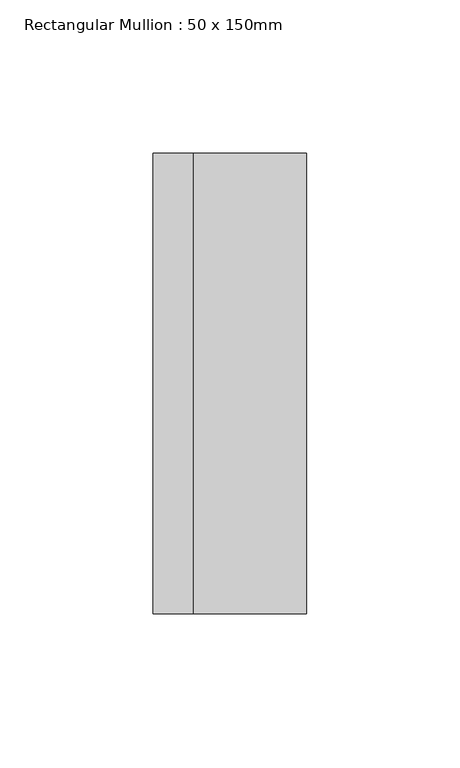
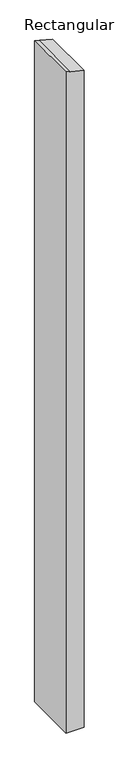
"""IFC4 building model written with IfcOpenShell, lengths in millimetres: member geometry, Rectangular Mullion : 50 x 150mm."""

import ifcopenshell
import ifcopenshell.guid

model = None  # the IFC model being written
_history = None  # IfcOwnerHistory: only IFC2X3 demands one
_inside = {}  # id of a spatial element -> (the spatial element, [elements in it])
_under = {}  # id of a project, library or spatial element -> (it, [spatial elements below it])
_declared = {}  # id of a project -> (the project, [libraries it declares])
_typed = {}  # id of a type object -> (the type object, [elements of that type])
_made_of = {}  # id of a material, layer set ... -> (it, [elements and type objects made of it])


def new_model(schema):
    """Start an empty IFC model of exactly this schema.

    Asked for "IFC4X3", IfcOpenShell would pick the latest addendum, in which some entities
    have other attributes; the version numbers below select the first issue.
    IFC2X3 requires an IfcOwnerHistory on every rooted entity: one is made here for all.
    """
    global model, _history
    if schema == "IFC4X3":
        model = ifcopenshell.file(schema_version=(4, 3, 0, 0))
    else:
        model = ifcopenshell.file(schema=schema)
    _inside.clear()
    _under.clear()
    _declared.clear()
    _typed.clear()
    _made_of.clear()
    _history = None
    if model.schema == "IFC2X3":
        org = make("IfcOrganization", Name="unknown")
        user = make(
            "IfcPersonAndOrganization",
            ThePerson=make("IfcPerson", FamilyName="unknown"),
            TheOrganization=org,
        )
        app = make(
            "IfcApplication",
            ApplicationDeveloper=org,
            Version="unknown",
            ApplicationFullName="unknown",
            ApplicationIdentifier="unknown",
        )
        _history = make(
            "IfcOwnerHistory",
            OwningUser=user,
            OwningApplication=app,
            ChangeAction="ADDED",
            CreationDate=0,
        )
    return model


def make(cls, **values):
    """One entity of the class cls with the attributes given. An attribute that is None is left unset."""
    return model.create_entity(
        cls, **{name: value for name, value in values.items() if value is not None}
    )


def rooted(cls, **values):
    """An entity with a GlobalId (a new one), such as an element, a storey or a relation."""
    return make(cls, GlobalId=ifcopenshell.guid.new(), OwnerHistory=_history, **values)


def si_unit(unit_type, name, prefix=None):
    """IfcSIUnit, for example si_unit("LENGTHUNIT", "METRE", prefix="MILLI")."""
    return make("IfcSIUnit", UnitType=unit_type, Prefix=prefix, Name=name)


def assignment(units):
    """IfcUnitAssignment: the units of a project."""
    return None if units is None else make("IfcUnitAssignment", Units=units)


def point(xyz):
    """IfcCartesianPoint."""
    return None if xyz is None else make("IfcCartesianPoint", Coordinates=xyz)


def direction(xyz):
    """IfcDirection."""
    return None if xyz is None else make("IfcDirection", DirectionRatios=xyz)


def frame(location, z_axis=None, x_axis=None):
    """IfcAxis2Placement3D, a coordinate frame: its origin and axes. An axis left out is left unset."""
    return make(
        "IfcAxis2Placement3D",
        Location=point(location),
        Axis=direction(z_axis),
        RefDirection=direction(x_axis),
    )


def origin():
    """The frame at (0, 0, 0) with its axes left unset."""
    return frame((0.0, 0.0, 0.0))


def place(relative_to, where):
    """IfcLocalPlacement: puts the frame where relative to a parent placement (None: the world)."""
    return make(
        "IfcLocalPlacement", PlacementRelTo=relative_to, RelativePlacement=where
    )


def context(
    kind, dimensions, precision=None, world=None, true_north=None, identifier=None
):
    """IfcGeometricRepresentationContext, for example the 3D "Model" context."""
    return make(
        "IfcGeometricRepresentationContext",
        ContextIdentifier=identifier,
        ContextType=kind,
        CoordinateSpaceDimension=dimensions,
        Precision=precision,
        WorldCoordinateSystem=world,
        TrueNorth=true_north,
    )


def project(units=None, contexts=None):
    """IfcProject with its units and contexts."""
    return rooted(
        "IfcProject",
        Name="project",
        RepresentationContexts=contexts,
        UnitsInContext=assignment(units),
    )


def spatial(cls, under=None, at=None, **own):
    """A site, building, storey or space (cls), placed at a placement, below another one or the project."""
    s = rooted(cls, ObjectPlacement=at, **own)
    if under is not None:
        _under.setdefault(under.id(), (under, []))[1].append(s)
    return s


def faces_of(points, faces, orient=None, outer=None):
    """IfcFace entities. A face is a list of loops; a loop is a list of indices into points, from 0.

    orient and outer hold one flag for each loop. By default every Orientation is true, the
    first loop of a face is its IfcFaceOuterBound and the others are IfcFaceBound.
    """
    made = []
    for i, loops in enumerate(faces):
        bounds = []
        for j, loop in enumerate(loops):
            is_outer = j == 0 if outer is None else outer[i][j]
            bounds.append(
                make(
                    "IfcFaceOuterBound" if is_outer else "IfcFaceBound",
                    Bound=make("IfcPolyLoop", Polygon=[points[k] for k in loop]),
                    Orientation=True if orient is None else orient[i][j],
                )
            )
        made.append(make("IfcFace", Bounds=bounds))
    return made


def faceted_brep(points, faces, orient=None, outer=None, voids=None):
    """IfcFacetedBrep: a solid bounded by flat faces; with voids (closed shells), ...WithVoids."""
    shared = [point(p) for p in points]
    hull = make("IfcClosedShell", CfsFaces=faces_of(shared, faces, orient, outer))
    if voids is None:
        return make("IfcFacetedBrep", Outer=hull)
    return make(
        "IfcFacetedBrepWithVoids",
        Outer=hull,
        Voids=[
            make(cls, CfsFaces=faces_of(shared, fs, o, b)) for cls, fs, o, b in voids
        ],
    )


def shape(context_of_items, identifier, shape_type, items):
    """IfcShapeRepresentation: the items that make up one representation, for example the "Body"."""
    return make(
        "IfcShapeRepresentation",
        ContextOfItems=context_of_items,
        RepresentationIdentifier=identifier,
        RepresentationType=shape_type,
        Items=items,
    )


def source(mapping_origin, context_of_items, identifier, shape_type, items):
    """IfcRepresentationMap: a shape defined once, which mapped items show again and again."""
    return make(
        "IfcRepresentationMap",
        MappingOrigin=mapping_origin,
        MappedRepresentation=shape(context_of_items, identifier, shape_type, items),
    )


def transform(
    local_origin,
    x_axis=None,
    y_axis=None,
    z_axis=None,
    scale=None,
    scale2=None,
    scale3=None,
    uniform=True,
):
    """IfcCartesianTransformationOperator3D, or its non-uniform kind. x_axis, y_axis, z_axis: its Axis1, 2, 3."""
    if uniform:
        return make(
            "IfcCartesianTransformationOperator3D",
            Axis1=direction(x_axis),
            Axis2=direction(y_axis),
            LocalOrigin=point(local_origin),
            Scale=scale,
            Axis3=direction(z_axis),
        )
    return make(
        "IfcCartesianTransformationOperator3DnonUniform",
        Axis1=direction(x_axis),
        Axis2=direction(y_axis),
        LocalOrigin=point(local_origin),
        Scale=scale,
        Axis3=direction(z_axis),
        Scale2=scale2,
        Scale3=scale3,
    )


def mapped(mapping_source, mapping_target):
    """IfcMappedItem: shows the shape of a source again, moved by a transform."""
    return make(
        "IfcMappedItem", MappingSource=mapping_source, MappingTarget=mapping_target
    )


def made_of(thing, what):
    """Note that an element or type object is made of a material, layer set ...; save() writes the relation."""
    if what is not None:
        _made_of.setdefault(what.id(), (what, []))[1].append(thing)
    return thing


def element(
    cls,
    number,
    at=None,
    inside=None,
    cuts=None,
    type_object=None,
    material=None,
    context=None,
    identifier="Body",
    shape_type=None,
    held_by="IfcProductDefinitionShape",
    body=None,
    shapes=None,
    **own,
):
    """One element of the class cls, such as IfcWall. Its Tag is "e" and its number.

    at: its placement. inside: the storey or other place that contains it. cuts: it is an
    opening in that element (IfcRelVoidsElement). A single representation is given by context,
    identifier, shape_type and body (its items); several are given by shapes. held_by: the class
    of the entity that holds the representations. save() writes the other relations.
    """
    e = rooted(cls, Tag="e%d" % number, ObjectPlacement=at, **own)
    if body is not None:
        shapes = [shape(context, identifier, shape_type, body)]
    if shapes is not None:
        e.Representation = make(held_by, Representations=shapes)
    if inside is not None:
        _inside.setdefault(inside.id(), (inside, []))[1].append(e)
    if cuts is not None:
        rooted(
            "IfcRelVoidsElement", RelatingBuildingElement=cuts, RelatedOpeningElement=e
        )
    if type_object is not None:
        _typed.setdefault(type_object.id(), (type_object, []))[1].append(e)
    return made_of(e, material)


def aggregate(whole, parts):
    """IfcRelAggregates: a whole, such as a stair, and the parts it consists of."""
    return rooted("IfcRelAggregates", RelatingObject=whole, RelatedObjects=parts)


def save(model, path):
    """Write the relations noted so far, then the file.

    IfcRelAggregates (storeys below a building ...), IfcRelContainedInSpatialStructure (elements
    in a storey), IfcRelDefinesByType, IfcRelAssociatesMaterial and IfcRelDeclares: one each for
    every whole, place, type object, material and project.
    """
    for whole, parts in _under.values():
        aggregate(whole, parts)
    for where, things in _inside.values():
        rooted(
            "IfcRelContainedInSpatialStructure",
            RelatedElements=things,
            RelatingStructure=where,
        )
    for kind, things in _typed.values():
        rooted("IfcRelDefinesByType", RelatedObjects=things, RelatingType=kind)
    for what, things in _made_of.values():
        rooted("IfcRelAssociatesMaterial", RelatedObjects=things, RelatingMaterial=what)
    for by, libraries in _declared.values():
        rooted("IfcRelDeclares", RelatingContext=by, RelatedDefinitions=libraries)
    model.write(path)


def rectangular_mullion_50_x_150mm_53551cf9(model_context):
    return source(origin(), model_context, "Body", "Brep", [
        faceted_brep([(25.0, 75.0, -1979.1017182), (25.0, -75.0, -1979.1017182), (-25.0, -75.0, -1979.1017182), (-25.0, 75.0, -1979.1017182), (-25.0, 75.0, -45.3566528), (-11.8879914, 75.0, -48.5661987), (25.0, 75.0, -57.6863871), (-25.0, -75.0, -45.3566528), (25.0, -75.0, -57.6863871), (-11.8880233, -75.0, -48.5663291)], [[[0, 1, 2, 3]], [[4, 5, 6, 0, 3]], [[7, 4, 3, 2]], [[8, 9, 7, 2, 1]], [[6, 8, 1, 0]], [[6, 5, 9, 8]], [[5, 4, 7, 9]]]),
    ])


if __name__ == "__main__":
    model = new_model("IFC4")
    model_context = context("Model", 3, world=origin())
    ifc_project = project(units=[si_unit("LENGTHUNIT", "METRE", prefix="MILLI")], contexts=[model_context])
    site = spatial("IfcSite", under=ifc_project)
    building = spatial("IfcBuilding", under=site)
    placement = place(None, origin())
    rectangular_mullion_50_x_150mm_shape = rectangular_mullion_50_x_150mm_53551cf9(model_context)
    element("IfcMember", 1, ObjectType="Rectangular Mullion : 50 x 150mm", at=placement, inside=building, context=model_context, shape_type="MappedRepresentation", body=[
        mapped(rectangular_mullion_50_x_150mm_shape, transform((0.0, 0.0, 0.0), x_axis=(1.0, 0.0, 0.0), y_axis=(0.0, 1.0, 0.0), z_axis=(0.0, 0.0, 1.0))),
    ])
    save(model, "model.ifc")
